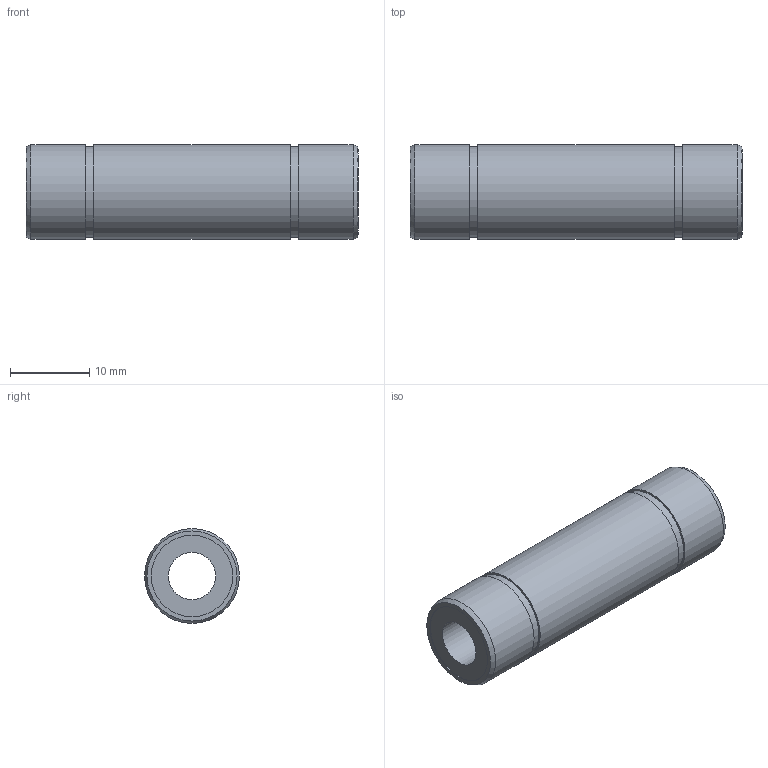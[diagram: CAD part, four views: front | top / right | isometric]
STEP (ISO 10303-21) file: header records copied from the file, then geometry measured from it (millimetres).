
FILE_DESCRIPTION((''),'2;1');
FILE_NAME('D:\製品 (図面)\カタログ用3D\メンテナンスフリー関連\STEP形式\LD-MF\LD6MF.stp','2010-06-01T15:34:35',('Tsuchiya'),(''),'Autodesk Inventor 10','Autodesk Inventor 10','');
FILE_SCHEMA(('AUTOMOTIVE_DESIGN { 1 0 10303 214 1 1 1 1 }'));
Length unit declared in the file: millimetre
Products named in the file (1): LD6MF
Bounding box: 42 x 12 x 12 mm (x, y, z)
Volume: 3524.7 mm3; surface area: 2562.7 mm2
Topology: 1 solids, 1 shells, 18 faces, 28 edges, 18 vertices
Faces by surface type: plane 8, cylinder 8, bspline 2
Full cylindrical faces by diameter (mm): 6 x1, 10.3 x2, 11.5 x2, 12 x3
Entity records: 435 total; most frequent: CARTESIAN_POINT 107, DIRECTION 70, ORIENTED_EDGE 36, EDGE_LOOP 36, AXIS2_PLACEMENT_3D 35, VERTEX_POINT 18, CIRCLE 18, EDGE_CURVE 18
